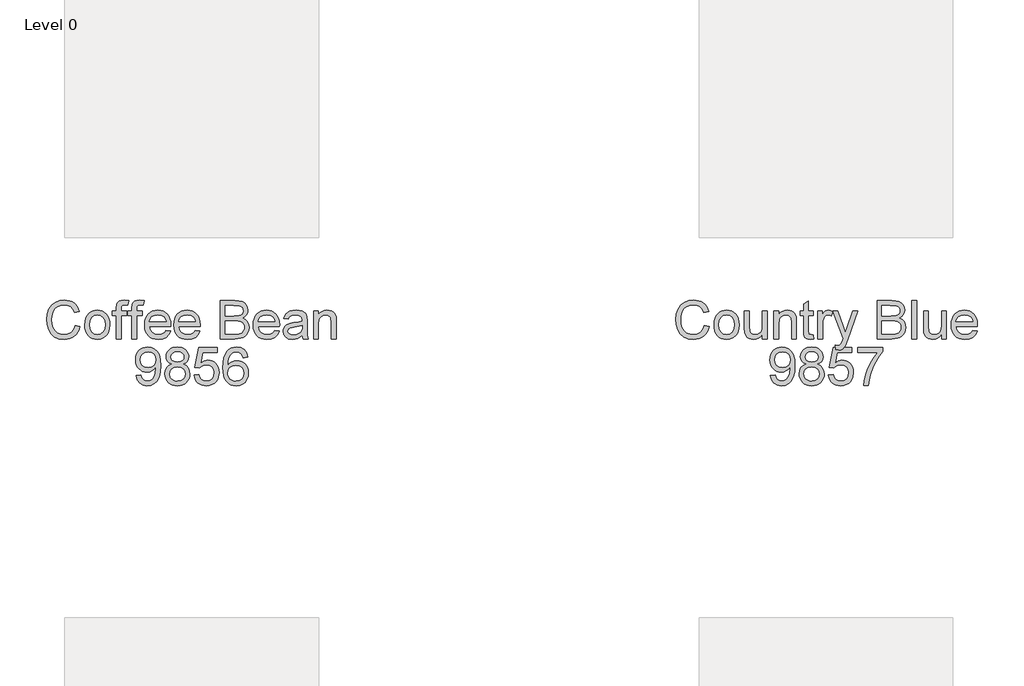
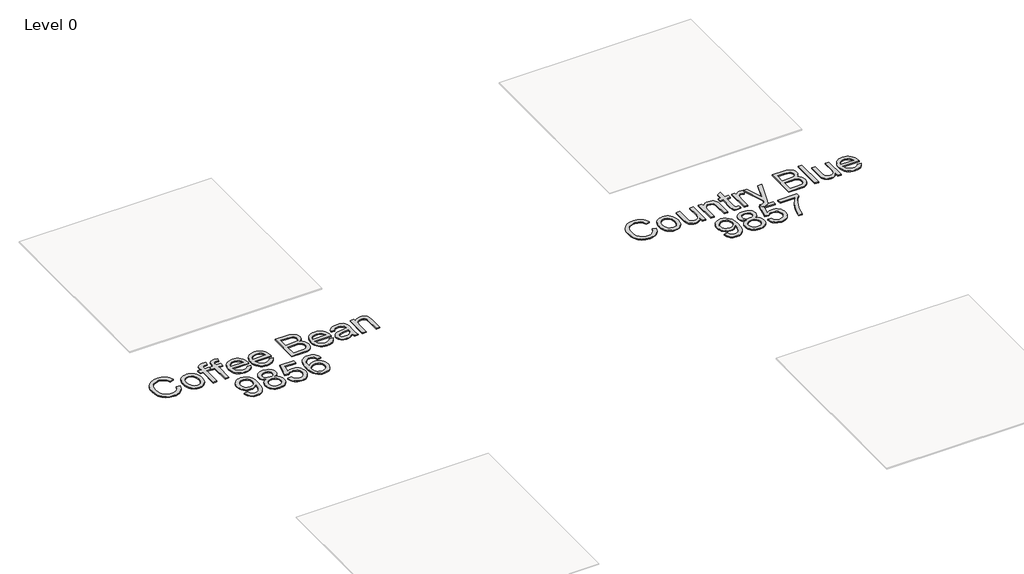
# One storey, part 2 of 8: 2 proxies.
"""IFC4 building model written with IfcOpenShell, lengths in millimetres."""

from ifc_helpers import new_model, si_unit, origin, origin_with_axes, place, context, project, spatial, polyline, outline, extrude, element, save

model = new_model("IFC4")

# Units and contexts
model_context = context("Model", 3, world=origin())
ifc_project = project(units=[si_unit("LENGTHUNIT", "METRE", prefix="MILLI")], contexts=[model_context])

# Site, building, storey
site = spatial("IfcSite", under=ifc_project)
building = spatial("IfcBuilding", under=site)
storey = spatial("IfcBuildingStorey", under=building, Name="Level 0", Elevation=0.0)

# Proxies
placement = place(None, origin())
element("IfcBuildingElementProxy", 1, Name="300mm Arial", ObjectType="300mm Arial", at=placement, inside=storey, context=model_context, shape_type="SweptSolid", body=[
    extrude(outline(polyline([(-10368.8915163, -11895.733257), (-10331.2204, -11905.4453417), (-10338.6746089, -11928.872527), (-10348.6028242, -11949.3428607), (-10361.005046, -11966.856343), (-10375.8812742, -11981.4129737), (-10392.8958165, -11992.856403), (-10411.7129805, -12001.0302811), (-10432.3327663, -12005.9346079), (-10454.7551739, -12007.5693835), (-10498.4503579, -12002.6213707), (-10533.1508271, -11987.7773322), (-10559.7486954, -11963.5523028), (-10579.1360765, -11930.4613173), (-10590.9726797, -11891.5577963), (-10594.9182141, -11849.8951604), (-10590.4576449, -11805.9516561), (-10577.0759373, -11768.0046283), (-10555.4720672, -11737.2588905), (-10526.3450102, -11714.9192564), (-10491.8008909, -11701.3168196), (-10453.9458336, -11696.782674), (-10412.6418825, -11702.6503918), (-10394.6731463, -11709.9850391), (-10378.4932363, -11720.2535453), (-10364.368867, -11733.1845974), (-10352.5667527, -11748.5068825), (-10335.9292895, -11786.3251516), (-10373.6004058, -11795.3014723), (-10386.6602166, -11767.8298843), (-10404.5024934, -11748.9851291), (-10427.3479653, -11738.086625), (-10455.4173615, -11734.4537903), (-10487.772583, -11738.4820981), (-10514.3520572, -11750.5670217), (-10534.5211875, -11769.439368), (-10547.6453777, -11793.8299443), (-10554.8466678, -11821.4026999), (-10557.2470978, -11849.821584), (-10554.4052094, -11884.6232207), (-10545.8795441, -11914.7159679), (-10531.3482053, -11938.9501944), (-10510.4892962, -11956.1762688), (-10485.4825176, -11966.4677676), (-10458.5075703, -11969.8982672), (-10427.0628568, -11965.2261659), (-10400.8604616, -11951.2098619), (-10381.0776074, -11927.996508), (-10368.8915163, -11895.733257)])), origin_with_axes(), (0.0, 0.0, 1.0), 10.0),
    extrude(outline(polyline([(-10293.5492837, -11892.2015898), (-10291.5121371, -11863.5389839), (-10285.4006975, -11838.8403064), (-10275.2149647, -11818.1055575), (-10260.9549389, -11801.334737), (-10246.598344, -11790.6155754), (-10230.7518271, -11782.9590314), (-10213.4153881, -11778.3651049), (-10194.589027, -11776.8337961), (-10173.8059935, -11778.698498), (-10155.0141213, -11784.2926036), (-10138.2134105, -11793.6161129), (-10123.4038609, -11806.669026), (-10111.3166381, -11823.0098843), (-10102.6829075, -11842.1972296), (-10097.5026692, -11864.2310619), (-10095.775923, -11889.1113811), (-10098.8293436, -11927.1687735), (-10107.9896053, -11956.1394806), (-10122.9899936, -11977.8353213), (-10143.5637942, -11994.0681143), (-10168.0003558, -12004.1940662), (-10194.589027, -12007.5693835), (-10215.6755631, -12005.7115794), (-10234.6421792, -12000.1381672), (-10251.4888753, -11990.8491468), (-10266.2156514, -11977.8445183), (-10278.1741155, -11961.3450108), (-10286.7158756, -11941.5713536), (-10291.8409316, -11918.5235466), (-10293.5492837, -11892.2015898)]), holes=[polyline([(-10255.8781674, -11892.1280134), (-10251.5187657, -11926.2214773), (-10238.4405608, -11950.5108861), (-10218.758874, -11965.0514219), (-10194.589027, -11969.8982672), (-10170.5295445, -11965.0238308), (-10150.8846459, -11950.4005215), (-10137.806441, -11925.789216), (-10133.4470394, -11890.950791), (-10137.8340321, -11857.8506085), (-10150.9950105, -11833.8922936), (-10170.6675002, -11819.3517577), (-10194.589027, -11814.5049125), (-10218.758874, -11819.3333636), (-10238.4405608, -11833.8187172), (-10251.5187657, -11858.0529436), (-10255.8781674, -11892.1280134)])]), origin_with_axes(), (0.0, 0.0, 1.0), 10.0),
    extrude(outline(polyline([(-9921.5470101, -12002.860494), (-9921.5470101, -11819.213802), (-9954.5092369, -11819.213802), (-9954.5092369, -11781.5426857), (-9921.5470101, -11781.5426857), (-9921.5470101, -11759.2490368), (-9917.5738846, -11727.8319144), (-9909.9955155, -11715.3055325), (-9898.296868, -11705.3911127), (-9881.9261193, -11698.9347837), (-9860.3314461, -11696.782674), (-9825.9712678, -11700.9029523), (-9831.4894977, -11736.2196239), (-9853.1945354, -11734.4537903), (-9867.5143421, -11736.0172888), (-9876.9229241, -11740.7077842), (-9882.1376514, -11749.6657108), (-9883.8758938, -11764.0315027), (-9883.8758938, -11781.5426857), (-9841.495888, -11781.5426857), (-9841.495888, -11819.213802), (-9883.8758938, -11819.213802), (-9883.8758938, -12002.860494), (-9921.5470101, -12002.860494)])), origin_with_axes(), (0.0, 0.0, 1.0), 10.0),
    extrude(outline(polyline([(-10043.9781381, -12002.860494), (-10043.9781381, -11819.213802), (-10076.9403649, -11819.213802), (-10076.9403649, -11781.5426857), (-10043.9781381, -11781.5426857), (-10043.9781381, -11759.2490368), (-10040.0050126, -11727.8319144), (-10032.4266435, -11715.3055325), (-10020.727996, -11705.3911127), (-10004.3572472, -11698.9347837), (-9982.7625741, -11696.782674), (-9948.4023958, -11700.9029523), (-9953.9206257, -11736.2196239), (-9975.6256634, -11734.4537903), (-9989.9454701, -11736.0172888), (-9999.3540521, -11740.7077842), (-10004.5687794, -11749.6657108), (-10006.3070218, -11764.0315027), (-10006.3070218, -11781.5426857), (-9963.927016, -11781.5426857), (-9963.927016, -11819.213802), (-10006.3070218, -11819.213802), (-10006.3070218, -12002.860494), (-10043.9781381, -12002.860494)])), origin_with_axes(), (0.0, 0.0, 1.0), 10.0),
    extrude(outline(polyline([(-9653.5817648, -11936.9360404), (-9616.6464125, -11941.64493), (-9629.9545437, -11969.4752029), (-9651.1905319, -11990.2789297), (-9679.8761305, -12003.2467701), (-9715.5330928, -12007.5693835), (-9738.9073951, -12005.7046817), (-9759.7341146, -12000.1105761), (-9778.0132512, -11990.7870668), (-9793.744805, -11977.7341537), (-9806.3953471, -11961.3151204), (-9815.4314486, -11941.8932503), (-9820.8531095, -11919.4685435), (-9822.6603298, -11894.0409998), (-9820.8347154, -11867.7512327), (-9815.3578722, -11844.5792656), (-9806.2298002, -11824.5250983), (-9793.4504994, -11807.5887309), (-9777.7603323, -11794.133447), (-9759.8996615, -11784.5225298), (-9739.8684868, -11778.7559796), (-9717.6668084, -11776.8337961), (-9696.1802006, -11778.751381), (-9676.7491335, -11784.5041357), (-9659.373607, -11794.0920602), (-9644.0536212, -11807.5151545), (-9631.5479326, -11824.4147337), (-9622.6152979, -11844.4321128), (-9617.2557171, -11867.5672917), (-9615.4691901, -11893.8202706), (-9615.6899193, -11903.9738137), (-9784.9892135, -11903.9738137), (-9778.4685052, -11932.1719686), (-9763.320964, -11952.902119), (-9741.4595764, -11965.6492302), (-9714.7973288, -11969.8982672), (-9694.7477601, -11967.9300985), (-9677.8619765, -11962.0255925), (-9664.1399781, -11951.8168672), (-9653.5817648, -11936.9360404)]), holes=[polyline([(-9784.9892135, -11866.3026974), (-9653.1403065, -11866.3026974), (-9658.2354721, -11846.4002814), (-9668.2234683, -11832.1632482), (-9690.1860234, -11818.9194964), (-9717.8139612, -11814.5049125), (-9743.2070159, -11818.0273826), (-9764.2038808, -11828.5947929), (-9778.799599, -11845.0667092), (-9784.9892135, -11866.3026974)])]), origin_with_axes(), (0.0, 0.0, 1.0), 10.0),
    extrude(outline(polyline([(-9422.8461775, -11936.9360404), (-9385.9108252, -11941.64493), (-9399.2189563, -11969.4752029), (-9420.4549445, -11990.2789297), (-9449.1405431, -12003.2467701), (-9484.7975055, -12007.5693835), (-9508.1718077, -12005.7046817), (-9528.9985272, -12000.1105761), (-9547.2776638, -11990.7870668), (-9563.0092176, -11977.7341537), (-9575.6597597, -11961.3151204), (-9584.6958613, -11941.8932503), (-9590.1175222, -11919.4685435), (-9591.9247425, -11894.0409998), (-9590.0991281, -11867.7512327), (-9584.6222849, -11844.5792656), (-9575.4942128, -11824.5250983), (-9562.714912, -11807.5887309), (-9547.0247449, -11794.133447), (-9529.1640741, -11784.5225298), (-9509.1328994, -11778.7559796), (-9486.931221, -11776.8337961), (-9465.4446133, -11778.751381), (-9446.0135461, -11784.5041357), (-9428.6380196, -11794.0920602), (-9413.3180338, -11807.5151545), (-9400.8123452, -11824.4147337), (-9391.8797105, -11844.4321128), (-9386.5201297, -11867.5672917), (-9384.7336028, -11893.8202706), (-9384.954332, -11903.9738137), (-9554.2536261, -11903.9738137), (-9547.7329178, -11932.1719686), (-9532.5853766, -11952.902119), (-9510.7239891, -11965.6492302), (-9484.0617415, -11969.8982672), (-9464.0121727, -11967.9300985), (-9447.1263892, -11962.0255925), (-9433.4043907, -11951.8168672), (-9422.8461775, -11936.9360404)]), holes=[polyline([(-9554.2536261, -11866.3026974), (-9422.4047191, -11866.3026974), (-9427.4998847, -11846.4002814), (-9437.4878809, -11832.1632482), (-9459.450436, -11818.9194964), (-9487.0783738, -11814.5049125), (-9512.4714285, -11818.0273826), (-9533.4682934, -11828.5947929), (-9548.0640116, -11845.0667092), (-9554.2536261, -11866.3026974)])]), origin_with_axes(), (0.0, 0.0, 1.0), 10.0),
    extrude(outline(polyline([(-9224.6313585, -12002.860494), (-9224.6313585, -11701.4915635), (-9109.6314468, -11701.4915635), (-9078.0027922, -11703.7080526), (-9053.3087133, -11710.3575196), (-9034.3811847, -11721.6055116), (-9020.052181, -11737.6175755), (-9011.029875, -11756.4531336), (-9008.0224397, -11776.1716086), (-9010.5516284, -11794.317388), (-9018.1391946, -11811.3779155), (-9030.8403205, -11826.3047274), (-9048.7101884, -11838.0493601), (-9027.3638356, -11849.1961846), (-9011.5908951, -11866.1555446), (-9001.8512192, -11887.8054), (-8998.6046606, -11913.0237108), (-9000.8211497, -11934.0389697), (-9007.4706167, -11953.5275184), (-9017.3942335, -11970.1006023), (-9029.4331718, -11982.3694669), (-9044.1760428, -11991.253817), (-9062.2114576, -11997.6733578), (-9110.5143636, -12002.860494), (-9224.6313585, -12002.860494)]), holes=[polyline([(-9186.9602422, -11823.9226915), (-9118.1663091, -11823.9226915), (-9077.9935952, -11820.68533), (-9063.9313059, -11815.1027207), (-9053.8237481, -11806.7426024), (-9047.726104, -11795.7337336), (-9045.693556, -11782.2048733), (-9047.5881483, -11769.071486), (-9053.2719251, -11757.630356), (-9062.4873691, -11748.7000206), (-9074.9769628, -11743.0990172), (-9123.3902334, -11739.1626798), (-9186.9602422, -11739.1626798), (-9186.9602422, -11823.9226915)]), polyline([(-9186.9602422, -11965.1893777), (-9109.7050232, -11965.1893777), (-9081.7459915, -11963.7178497), (-9058.0911793, -11955.5140812), (-9042.4194063, -11938.7754504), (-9037.8116843, -11926.9480443), (-9036.2757769, -11913.3915928), (-9038.0783987, -11897.6462434), (-9043.486264, -11884.1081859), (-9052.9316343, -11873.5223815), (-9066.8467707, -11866.6337912), (-9086.5560486, -11862.8538037), (-9113.3838431, -11861.5938078), (-9186.9602422, -11861.5938078), (-9186.9602422, -11965.1893777)])]), origin_with_axes(), (0.0, 0.0, 1.0), 10.0),
    extrude(outline(polyline([(-8796.5638689, -11936.9360404), (-8759.6285166, -11941.64493), (-8772.9366477, -11969.4752029), (-8794.1726359, -11990.2789297), (-8822.8582345, -12003.2467701), (-8858.5151969, -12007.5693835), (-8881.8894991, -12005.7046817), (-8902.7162186, -12000.1105761), (-8920.9953552, -11990.7870668), (-8936.726909, -11977.7341537), (-8949.3774512, -11961.3151204), (-8958.4135527, -11941.8932503), (-8963.8352136, -11919.4685435), (-8965.6424339, -11894.0409998), (-8963.8168195, -11867.7512327), (-8958.3399763, -11844.5792656), (-8949.2119043, -11824.5250983), (-8936.4326034, -11807.5887309), (-8920.7424364, -11794.133447), (-8902.8817655, -11784.5225298), (-8882.8505909, -11778.7559796), (-8860.6489124, -11776.8337961), (-8839.1623047, -11778.751381), (-8819.7312375, -11784.5041357), (-8802.355711, -11794.0920602), (-8787.0357252, -11807.5151545), (-8774.5300366, -11824.4147337), (-8765.5974019, -11844.4321128), (-8760.2378211, -11867.5672917), (-8758.4512942, -11893.8202706), (-8758.6720234, -11903.9738137), (-8927.9713176, -11903.9738137), (-8921.4506092, -11932.1719686), (-8906.303068, -11952.902119), (-8884.4416805, -11965.6492302), (-8857.7794329, -11969.8982672), (-8837.7298641, -11967.9300985), (-8820.8440806, -11962.0255925), (-8807.1220821, -11951.8168672), (-8796.5638689, -11936.9360404)]), holes=[polyline([(-8927.9713176, -11866.3026974), (-8796.1224105, -11866.3026974), (-8801.2175761, -11846.4002814), (-8811.2055723, -11832.1632482), (-8833.1681274, -11818.9194964), (-8860.7960652, -11814.5049125), (-8886.18912, -11818.0273826), (-8907.1859848, -11828.5947929), (-8921.781703, -11845.0667092), (-8927.9713176, -11866.3026974)])]), origin_with_axes(), (0.0, 0.0, 1.0), 10.0),
    extrude(outline(polyline([(-8579.5134917, -11974.6071568), (-8597.5121183, -11990.0398064), (-8616.0441738, -12000.1381672), (-8635.5327225, -12005.7115794), (-8656.4008287, -12007.5693835), (-8687.8823305, -12003.0996173), (-8711.1048814, -11989.6903186), (-8725.4246881, -11969.3280501), (-8730.197957, -11943.9993748), (-8728.3953352, -11928.3827841), (-8722.9874698, -11914.2009331), (-8714.6457456, -11902.0608273), (-8704.0415471, -11892.5694718), (-8677.664408, -11880.2086368), (-8645.0700633, -11874.5432541), (-8606.5528184, -11868.5835657), (-8579.7342209, -11861.5938078), (-8579.5134917, -11853.2060983), (-8582.1070598, -11836.3938912), (-8589.887764, -11825.3942195), (-8607.2885824, -11817.2272392), (-8631.5320058, -11814.5049125), (-8653.9728076, -11816.3167313), (-8669.6445805, -11821.7521878), (-8680.3315525, -11831.8045633), (-8687.8179511, -11847.4671392), (-8725.4890674, -11842.7582497), (-8718.949965, -11822.156858), (-8709.191895, -11805.9700502), (-8695.3043497, -11793.590821), (-8676.3768211, -11784.4121652), (-8653.2278465, -11778.7283884), (-8626.6759635, -11776.8337961), (-8601.2093324, -11778.5076592), (-8581.0218079, -11783.5292485), (-8565.8006904, -11791.0800264), (-8555.23328, -11800.3414556), (-8548.225128, -11811.7917827), (-8543.6817854, -11825.9092543), (-8541.8423754, -11858.8714811), (-8541.8423754, -11905.7396473), (-8539.929389, -11971.1858542), (-8532.4245963, -12002.860494), (-8570.0957127, -12002.860494), (-8579.5134917, -11974.6071568)]), holes=[polyline([(-8579.5134917, -11899.2649241), (-8640.2875973, -11910.8164188), (-8672.6980011, -11916.9232599), (-8687.3764927, -11926.8560738), (-8692.5268406, -11941.3506244), (-8689.7217404, -11952.5526311), (-8681.3064398, -11961.7312869), (-8667.4648797, -11967.8565221), (-8648.3810012, -11969.8982672), (-8628.1474915, -11967.64499), (-8610.2684265, -11960.8851583), (-8595.7738759, -11950.9247533), (-8585.6939092, -11939.069756), (-8581.224143, -11926.8560738), (-8579.7342209, -11909.933502), (-8579.5134917, -11899.2649241)])]), origin_with_axes(), (0.0, 0.0, 1.0), 10.0),
    extrude(outline(polyline([(-8490.0445905, -12002.860494), (-8490.0445905, -11781.5426857), (-8452.3734742, -11781.5426857), (-8452.3734742, -11812.4447733), (-8439.2860722, -11796.8649708), (-8423.568314, -11785.7365404), (-8405.2201995, -11779.0594822), (-8384.2417287, -11776.8337961), (-8365.672885, -11778.6272209), (-8348.6675398, -11784.0074951), (-8334.4856888, -11792.303234), (-8324.3873281, -11802.8430532), (-8313.0933508, -11830.5445674), (-8311.106788, -11866.964885), (-8311.106788, -12002.860494), (-8348.7779044, -12002.860494), (-8348.7779044, -11872.0416565), (-8353.1189119, -11838.7115477), (-8359.1245855, -11828.7879309), (-8368.4595911, -11821.0900002), (-8380.424953, -11816.1511844), (-8394.3216954, -11814.5049125), (-8416.385418, -11818.2021265), (-8435.193385, -11829.2937687), (-8442.709674, -11838.3482643), (-8448.0784519, -11850.7228949), (-8452.3734742, -11885.4325611), (-8452.3734742, -12002.860494), (-8490.0445905, -12002.860494)])), origin_with_axes(), (0.0, 0.0, 1.0), 10.0),
    extrude(outline(polyline([(-9888.5847834, -12293.4427149), (-9850.9136671, -12288.7338254), (-9844.4757321, -12310.1169663), (-9833.9910953, -12324.6758963), (-9819.7172739, -12333.0360146), (-9801.9117853, -12335.8227207), (-9785.9365097, -12334.029296), (-9771.4143679, -12328.6490218), (-9759.3478385, -12320.2705094), (-9750.7393998, -12309.4823699), (-9738.4153529, -12276.7408723), (-9732.9706994, -12233.0364913), (-9733.1914286, -12225.6788514), (-9746.2420424, -12241.6081418), (-9763.320964, -12254.2264942), (-9783.1957888, -12262.4486568), (-9804.6341121, -12265.1893777), (-9822.5292719, -12263.5155146), (-9838.9850934, -12258.4939254), (-9854.0015766, -12250.12461), (-9867.5787214, -12238.4075684), (-9878.8290127, -12223.9544045), (-9886.864935, -12207.3767221), (-9891.6864884, -12188.6745212), (-9893.2936729, -12167.8478018), (-9891.6083135, -12146.326705), (-9886.5522353, -12127.0129003), (-9878.1254384, -12109.9063875), (-9866.3279227, -12095.0071667), (-9851.9920212, -12082.9360387), (-9835.9500669, -12074.3138045), (-9818.2020599, -12069.1404639), (-9798.7480001, -12067.4160171), (-9770.6510128, -12071.3523544), (-9745.074017, -12083.1613665), (-9723.681679, -12102.254442), (-9708.1386647, -12128.0429699), (-9698.6749004, -12163.6907352), (-9695.5203123, -12212.3615232), (-9698.6657034, -12263.96617), (-9708.1018765, -12303.8537754), (-9723.7460584, -12333.8269609), (-9745.5154754, -12355.6883485), (-9772.4720286, -12369.0424649), (-9803.6776189, -12373.4938371), (-9835.8856876, -12368.2423216), (-9861.5822449, -12352.4877751), (-9879.5532804, -12327.2234791), (-9888.5847834, -12293.4427149)]), holes=[polyline([(-9733.1914286, -12166.964885), (-9737.2565246, -12141.4338745), (-9749.4518128, -12121.788976), (-9768.3793414, -12109.262594), (-9792.641159, -12105.0871334), (-9817.8042875, -12109.5844908), (-9837.9642208, -12123.0765629), (-9851.2079727, -12143.7239399), (-9855.6225566, -12169.6872117), (-9851.447096, -12192.964945), (-9838.920714, -12211.4418182), (-9819.2574214, -12223.4991506), (-9793.6712286, -12227.5182614), (-9769.6025491, -12223.4991506), (-9750.224365, -12211.4418182), (-9737.4496627, -12192.2843633), (-9733.1914286, -12166.964885)])]), origin_with_axes(), (0.0, 0.0, 1.0), 10.0),
    extrude(outline(polyline([(-9607.6700918, -12202.7965913), (-9627.8392222, -12192.8637774), (-9641.993482, -12179.3992964), (-9650.3536003, -12162.6790597), (-9653.1403065, -12142.9789789), (-9651.6227932, -12127.6153071), (-9647.0702535, -12113.5300252), (-9639.4826874, -12100.7231332), (-9628.8600948, -12089.1946312), (-9615.712912, -12079.6664875), (-9600.5515752, -12072.8606706), (-9564.18644, -12067.4160171), (-9527.6005756, -12072.9894293), (-9512.273692, -12079.9561946), (-9498.9241741, -12089.709666), (-9488.1084434, -12101.4634957), (-9480.3829215, -12114.4313361), (-9475.7476084, -12128.613187), (-9474.202504, -12144.0090485), (-9476.9524219, -12163.0745329), (-9485.2021757, -12179.509661), (-9499.0437357, -12192.8913686), (-9518.5690726, -12202.7965913), (-9495.3833099, -12214.7435591), (-9478.5067233, -12232.3375155), (-9468.2152245, -12254.732332), (-9464.7847249, -12281.0818799), (-9466.4861791, -12299.8714528), (-9471.5905418, -12317.0975272), (-9480.097813, -12332.7601031), (-9492.0079926, -12346.8591806), (-9506.6956812, -12358.5118428), (-9523.5354796, -12366.8351729), (-9542.5273876, -12371.829171), (-9563.6714052, -12373.4938371), (-9584.8154229, -12371.8222732), (-9603.8073309, -12366.8075818), (-9620.6471292, -12358.4497627), (-9635.3348179, -12346.748816), (-9647.2449975, -12332.5508703), (-9655.7522686, -12316.702054), (-9660.8566313, -12299.2023674), (-9662.5580855, -12280.0518103), (-9658.9896302, -12252.6813898), (-9648.2842641, -12230.1670117), (-9630.9938103, -12213.2812282), (-9607.6700918, -12202.7965913)]), holes=[polyline([(-9615.4691901, -12144.0826249), (-9612.130661, -12160.52695), (-9602.1150737, -12173.6603373), (-9585.7167338, -12182.268776), (-9563.2299468, -12185.1382555), (-9541.2673917, -12182.2871701), (-9525.1173721, -12173.7339137), (-9515.1845583, -12161.0419848), (-9511.8736203, -12145.774882), (-9515.2949229, -12129.9283651), (-9525.5588305, -12116.822569), (-9541.9295793, -12108.0209923), (-9563.6714052, -12105.0871334), (-9585.5511869, -12107.9566129), (-9601.8943445, -12116.5650516), (-9612.0754787, -12129.1834041), (-9615.4691901, -12144.0826249)]), polyline([(-9624.8869692, -12278.7274351), (-9618.5961871, -12307.0911369), (-9609.8865809, -12319.2588339), (-9596.3393264, -12328.317928), (-9580.1157304, -12333.9465226), (-9563.3770996, -12335.8227207), (-9537.7357246, -12331.8771864), (-9518.4954962, -12320.0405832), (-9506.465755, -12302.1155329), (-9502.4558412, -12279.9046575), (-9506.5945137, -12257.316703), (-9519.010531, -12238.9961796), (-9538.6922178, -12226.8560738), (-9564.6278984, -12222.8093718), (-9589.9105885, -12226.8008915), (-9608.9576788, -12238.7754504), (-9620.9046466, -12256.7464859), (-9624.8869692, -12278.7274351)])]), origin_with_axes(), (0.0, 0.0, 1.0), 10.0),
    extrude(outline(polyline([(-9431.8224982, -12288.7338254), (-9394.1513818, -12284.0249358), (-9387.2352003, -12306.6404815), (-9375.1686709, -12322.8364863), (-9358.0069758, -12332.5761621), (-9335.8052974, -12335.8227207), (-9308.802759, -12331.3069693), (-9288.5692492, -12317.7597148), (-9275.9325027, -12296.7444558), (-9271.7202539, -12269.8246908), (-9275.6657883, -12244.4776213), (-9287.5023914, -12225.0902402), (-9307.3220339, -12212.7845875), (-9335.2166862, -12208.6827032), (-9353.4912243, -12210.3197781), (-9368.2892776, -12215.2310027), (-9389.4424923, -12232.2271509), (-9427.1136086, -12227.5182614), (-9394.1513818, -12072.1249066), (-9248.1758062, -12072.1249066), (-9248.1758062, -12109.7960229), (-9363.6907526, -12109.7960229), (-9379.803984, -12192.790201), (-9352.8934161, -12176.4562404), (-9324.6952612, -12171.0115869), (-9306.3494459, -12172.6992456), (-9289.4981513, -12177.7622215), (-9274.1413772, -12186.2005148), (-9260.2791238, -12198.0141254), (-9248.8035048, -12212.4810848), (-9240.6066341, -12228.8794248), (-9235.6885117, -12247.2091452), (-9234.0491375, -12267.470246), (-9239.9536436, -12305.1413624), (-9247.3342761, -12321.9351754), (-9257.6671616, -12337.3678251), (-9273.3205405, -12353.1729553), (-9291.5858816, -12364.4623341), (-9312.4631848, -12371.2359613), (-9335.9524502, -12373.4938371), (-9372.9521819, -12367.6904986), (-9388.6308527, -12360.4363255), (-9402.4287267, -12350.2804832), (-9413.9089443, -12337.7288093), (-9422.6346453, -12323.2871418), (-9431.8224982, -12288.7338254)])), origin_with_axes(), (0.0, 0.0, 1.0), 10.0),
    extrude(outline(polyline([(-9008.0224397, -12147.4671392), (-9045.693556, -12152.1760288), (-9051.7636089, -12133.5060175), (-9059.9673774, -12120.7589064), (-9077.0554961, -12109.0050766), (-9097.7120701, -12105.0871334), (-9115.2232531, -12107.3680017), (-9131.7043665, -12114.2106069), (-9145.8586263, -12128.622384), (-9157.419318, -12148.4604206), (-9165.2276133, -12176.5206198), (-9168.124684, -12215.5988847), (-9153.0139311, -12197.9681401), (-9134.9049398, -12185.5429257), (-9114.8093859, -12178.1760888), (-9093.7389446, -12175.7204764), (-9075.6391504, -12177.3989381), (-9058.9373078, -12182.4343229), (-9043.6334168, -12190.8266309), (-9029.7274774, -12202.5758621), (-9018.1713843, -12216.9830407), (-9009.917032, -12233.349191), (-9004.9644206, -12251.6743129), (-9003.3135502, -12271.9584064), (-9006.422153, -12298.9333537), (-9015.7479616, -12323.9401323), (-9030.5184237, -12345.1485293), (-9049.9609872, -12360.7283318), (-9073.1927352, -12370.3024607), (-9099.3307509, -12373.4938371), (-9121.7876475, -12371.3785156), (-9142.0694417, -12365.0325512), (-9160.1761337, -12354.4559438), (-9176.1077233, -12339.6486935), (-9189.096257, -12319.9854009), (-9198.3737811, -12294.8406665), (-9203.9402955, -12264.2144904), (-9205.7958003, -12228.1068726), (-9203.7356611, -12187.6260575), (-9197.5552436, -12153.0773396), (-9187.2545478, -12124.4607189), (-9172.8335735, -12101.7761954), (-9157.2031873, -12086.7436174), (-9139.0804005, -12076.0060617), (-9118.4652132, -12069.5635282), (-9095.3576254, -12067.4160171), (-9062.3034281, -12072.7319119), (-9035.8343185, -12088.6795964), (-9017.293066, -12114.0082718), (-9008.0224397, -12147.4671392)]), holes=[polyline([(-9168.124684, -12271.3697952), (-9165.9449832, -12288.0624407), (-9159.4058807, -12304.0009282), (-9149.2523377, -12317.7045325), (-9136.229315, -12327.6925287), (-9120.5115568, -12333.7901727), (-9102.2738069, -12335.8227207), (-9077.4141811, -12331.6104719), (-9057.8704501, -12318.9737254), (-9045.2061124, -12299.1080976), (-9040.9846665, -12273.2092052), (-9045.1509301, -12248.3495793), (-9057.6497209, -12229.3944595), (-9077.5245456, -12217.3923095), (-9103.8189113, -12213.3915928), (-9128.6417489, -12217.3923095), (-9149.3994905, -12229.3944595), (-9163.4433856, -12247.8897269), (-9168.124684, -12271.3697952)])]), origin_with_axes(), (0.0, 0.0, 1.0), 10.0),
])
element("IfcBuildingElementProxy", 2, Name="300mm Arial", ObjectType="300mm Arial", at=placement, inside=storey, context=model_context, shape_type="SweptSolid", body=[
    extrude(outline(polyline([(-5408.9170773, -11895.733257), (-5371.245961, -11905.4453417), (-5378.70017, -11928.872527), (-5388.6283853, -11949.3428607), (-5401.0306071, -11966.856343), (-5415.9068353, -11981.4129737), (-5432.9213775, -11992.856403), (-5451.7385416, -12001.0302811), (-5472.3583274, -12005.9346079), (-5494.780735, -12007.5693835), (-5538.475919, -12002.6213707), (-5573.1763882, -11987.7773322), (-5599.7742564, -11963.5523028), (-5619.1616376, -11930.4613173), (-5630.9982408, -11891.5577963), (-5634.9437752, -11849.8951604), (-5630.483206, -11805.9516561), (-5617.1014984, -11768.0046283), (-5595.4976282, -11737.2588905), (-5566.3705713, -11714.9192564), (-5531.8264519, -11701.3168196), (-5493.9713946, -11696.782674), (-5452.6674436, -11702.6503918), (-5434.6987074, -11709.9850391), (-5418.5187974, -11720.2535453), (-5404.3944281, -11733.1845974), (-5392.5923138, -11748.5068825), (-5375.9548506, -11786.3251516), (-5413.6259669, -11795.3014723), (-5426.6857777, -11767.8298843), (-5444.5280545, -11748.9851291), (-5467.3735264, -11738.086625), (-5495.4429226, -11734.4537903), (-5527.7981441, -11738.4820981), (-5554.3776182, -11750.5670217), (-5574.5467486, -11769.439368), (-5587.6709388, -11793.8299443), (-5594.8722289, -11821.4026999), (-5597.2726589, -11849.821584), (-5594.4307705, -11884.6232207), (-5585.9051052, -11914.7159679), (-5571.3737664, -11938.9501944), (-5550.5148573, -11956.1762688), (-5525.5080787, -11966.4677676), (-5498.5331314, -11969.8982672), (-5467.0884178, -11965.2261659), (-5440.8860227, -11951.2098619), (-5421.1031684, -11927.996508), (-5408.9170773, -11895.733257)])), origin_with_axes(), (0.0, 0.0, 1.0), 10.0),
    extrude(outline(polyline([(-5333.5748447, -11892.2015898), (-5331.5376982, -11863.5389839), (-5325.4262585, -11838.8403064), (-5315.2405258, -11818.1055575), (-5300.9805, -11801.334737), (-5286.6239051, -11790.6155754), (-5270.7773882, -11782.9590314), (-5253.4409491, -11778.3651049), (-5234.614588, -11776.8337961), (-5213.8315546, -11778.698498), (-5195.0396824, -11784.2926036), (-5178.2389715, -11793.6161129), (-5163.429422, -11806.669026), (-5151.3421992, -11823.0098843), (-5142.7084686, -11842.1972296), (-5137.5282302, -11864.2310619), (-5135.8014841, -11889.1113811), (-5138.8549047, -11927.1687735), (-5148.0151664, -11956.1394806), (-5163.0155547, -11977.8353213), (-5183.5893553, -11994.0681143), (-5208.0259168, -12004.1940662), (-5234.614588, -12007.5693835), (-5255.7011241, -12005.7115794), (-5274.6677403, -12000.1381672), (-5291.5144364, -11990.8491468), (-5306.2412125, -11977.8445183), (-5318.1996766, -11961.3450108), (-5326.7414367, -11941.5713536), (-5331.8664927, -11918.5235466), (-5333.5748447, -11892.2015898)]), holes=[polyline([(-5295.9037284, -11892.1280134), (-5291.5443268, -11926.2214773), (-5278.4661219, -11950.5108861), (-5258.7844351, -11965.0514219), (-5234.614588, -11969.8982672), (-5210.5551055, -11965.0238308), (-5190.910207, -11950.4005215), (-5177.8320021, -11925.789216), (-5173.4726004, -11890.950791), (-5177.8595932, -11857.8506085), (-5191.0205716, -11833.8922936), (-5210.6930613, -11819.3517577), (-5234.614588, -11814.5049125), (-5258.7844351, -11819.3333636), (-5278.4661219, -11833.8187172), (-5291.5443268, -11858.0529436), (-5295.9037284, -11892.1280134)])]), origin_with_axes(), (0.0, 0.0, 1.0), 10.0),
    extrude(outline(polyline([(-4952.1547921, -12002.860494), (-4952.1547921, -11964.8214957), (-4965.7848201, -11983.5236966), (-4981.6589281, -11996.8824116), (-4999.7771164, -12004.8976405), (-5020.1393848, -12007.5693835), (-5038.4874994, -12005.6931853), (-5055.566421, -12000.0645908), (-5069.8954247, -11991.6033049), (-5079.9937855, -11981.2290327), (-5091.2141863, -11953.4907302), (-5093.4214783, -11918.4683643), (-5093.4214783, -11781.5426857), (-5055.750362, -11781.5426857), (-5055.750362, -11900.7364521), (-5053.4694936, -11939.1433324), (-5047.9788548, -11951.9548229), (-5038.5702728, -11961.6944987), (-5025.8691469, -11967.8473251), (-5010.5008766, -11969.8982672), (-4994.2496894, -11967.8013398), (-4979.046966, -11961.5105577), (-4966.511387, -11951.605335), (-4958.2616333, -11938.6650858), (-4953.6815024, -11920.9423707), (-4952.1547921, -11896.6897502), (-4952.1547921, -11781.5426857), (-4914.4836758, -11781.5426857), (-4914.4836758, -12002.860494), (-4952.1547921, -12002.860494)])), origin_with_axes(), (0.0, 0.0, 1.0), 10.0),
    extrude(outline(polyline([(-4862.6858909, -12002.860494), (-4862.6858909, -11781.5426857), (-4825.0147746, -11781.5426857), (-4825.0147746, -11812.4447733), (-4811.9273726, -11796.8649708), (-4796.2096144, -11785.7365404), (-4777.8614999, -11779.0594822), (-4756.8830291, -11776.8337961), (-4738.3141854, -11778.6272209), (-4721.3088402, -11784.0074951), (-4707.1269892, -11792.303234), (-4697.0286285, -11802.8430532), (-4685.7346512, -11830.5445674), (-4683.7480885, -11866.964885), (-4683.7480885, -12002.860494), (-4721.4192048, -12002.860494), (-4721.4192048, -11872.0416565), (-4725.7602123, -11838.7115477), (-4731.7658859, -11828.7879309), (-4741.1008915, -11821.0900002), (-4753.0662534, -11816.1511844), (-4766.9629958, -11814.5049125), (-4789.0267184, -11818.2021265), (-4807.8346854, -11829.2937687), (-4815.3509744, -11838.3482643), (-4820.7197523, -11850.7228949), (-4825.0147746, -11885.4325611), (-4825.0147746, -12002.860494), (-4862.6858909, -12002.860494)])), origin_with_axes(), (0.0, 0.0, 1.0), 10.0),
    extrude(outline(polyline([(-4551.8991814, -11971.4433716), (-4547.1902918, -12003.96414), (-4575.3700527, -12007.5693835), (-4593.4514527, -12006.005885), (-4606.9343279, -12001.3153896), (-4616.4624715, -11994.0865084), (-4622.6796773, -11984.9078526), (-4626.1009798, -11969.1441091), (-4627.241414, -11942.1599648), (-4627.241414, -11819.213802), (-4655.4947512, -11819.213802), (-4655.4947512, -11781.5426857), (-4627.241414, -11781.5426857), (-4627.241414, -11727.758338), (-4589.5702977, -11705.6118419), (-4589.5702977, -11781.5426857), (-4551.8991814, -11781.5426857), (-4551.8991814, -11819.213802), (-4589.5702977, -11819.213802), (-4589.5702977, -11941.0563188), (-4587.5837349, -11960.4804881), (-4581.1458, -11967.3598814), (-4568.3067184, -11969.8982672), (-4551.8991814, -11971.4433716)])), origin_with_axes(), (0.0, 0.0, 1.0), 10.0),
    extrude(outline(polyline([(-4514.2280651, -12002.860494), (-4514.2280651, -11781.5426857), (-4481.2658383, -11781.5426857), (-4481.2658383, -11814.2841833), (-4469.0889443, -11795.3014723), (-4457.8685434, -11784.1178596), (-4446.6113544, -11778.654812), (-4434.3240957, -11776.8337961), (-4415.562114, -11779.7400639), (-4396.5058266, -11788.4588672), (-4409.0873909, -11822.2304343), (-4422.3311427, -11816.4362929), (-4435.5748945, -11814.5049125), (-4446.8228865, -11816.3627165), (-4456.875262, -11821.9361288), (-4464.9962571, -11830.8020848), (-4470.4501076, -11842.5375205), (-4475.0302385, -11863.5803706), (-4476.5569488, -11886.5362071), (-4476.5569488, -12002.860494), (-4514.2280651, -12002.860494)])), origin_with_axes(), (0.0, 0.0, 1.0), 10.0),
    extrude(outline(polyline([(-4372.9613789, -12087.6205057), (-4377.6702685, -12051.3473409), (-4358.5404047, -12054.6582789), (-4340.6613397, -12050.5012124), (-4329.6984563, -12038.9129295), (-4319.3977604, -12011.1746271), (-4316.4547045, -12002.0511536), (-4396.5058266, -11781.5426857), (-4356.7745711, -11781.5426857), (-4314.3209889, -11904.4152721), (-4299.5321327, -11953.5643066), (-4284.7432765, -11910.1542312), (-4241.1124719, -11781.5426857), (-4201.675522, -11781.5426857), (-4278.7100118, -12008.1579947), (-4298.7227923, -12057.3070293), (-4308.9683059, -12072.9971964), (-4320.5749828, -12083.8681093), (-4334.0578579, -12090.2140737), (-4349.931966, -12092.3293952), (-4372.9613789, -12087.6205057)])), origin_with_axes(), (0.0, 0.0, 1.0), 10.0),
    extrude(outline(polyline([(-4048.0480008, -12002.860494), (-4048.0480008, -11701.4915635), (-3933.0480891, -11701.4915635), (-3901.4194346, -11703.7080526), (-3876.7253556, -11710.3575196), (-3857.797827, -11721.6055116), (-3843.4688233, -11737.6175755), (-3834.4465173, -11756.4531336), (-3831.439082, -11776.1716086), (-3833.9682707, -11794.317388), (-3841.5558369, -11811.3779155), (-3854.2569628, -11826.3047274), (-3872.1268307, -11838.0493601), (-3850.7804779, -11849.1961846), (-3835.0075374, -11866.1555446), (-3825.2678616, -11887.8054), (-3822.0213029, -11913.0237108), (-3824.237792, -11934.0389697), (-3830.887259, -11953.5275184), (-3840.8108759, -11970.1006023), (-3852.8498141, -11982.3694669), (-3867.5926851, -11991.253817), (-3885.6280999, -11997.6733578), (-3933.9310059, -12002.860494), (-4048.0480008, -12002.860494)]), holes=[polyline([(-4010.3768845, -11823.9226915), (-3941.5829514, -11823.9226915), (-3901.4102375, -11820.68533), (-3887.3479482, -11815.1027207), (-3877.2403904, -11806.7426024), (-3871.1427464, -11795.7337336), (-3869.1101983, -11782.2048733), (-3871.0047906, -11769.071486), (-3876.6885674, -11757.630356), (-3885.9040114, -11748.7000206), (-3898.3936051, -11743.0990172), (-3946.8068757, -11739.1626798), (-4010.3768845, -11739.1626798), (-4010.3768845, -11823.9226915)]), polyline([(-4010.3768845, -11965.1893777), (-3933.1216655, -11965.1893777), (-3905.1626339, -11963.7178497), (-3881.5078216, -11955.5140812), (-3865.8360486, -11938.7754504), (-3861.2283266, -11926.9480443), (-3859.6924193, -11913.3915928), (-3861.495041, -11897.6462434), (-3866.9029064, -11884.1081859), (-3876.3482766, -11873.5223815), (-3890.2634131, -11866.6337912), (-3909.9726909, -11862.8538037), (-3936.8004854, -11861.5938078), (-4010.3768845, -11861.5938078), (-4010.3768845, -11965.1893777)])]), origin_with_axes(), (0.0, 0.0, 1.0), 10.0),
    extrude(outline(polyline([(-3774.9324076, -12002.860494), (-3774.9324076, -11701.4915635), (-3737.2612913, -11701.4915635), (-3737.2612913, -12002.860494), (-3774.9324076, -12002.860494)])), origin_with_axes(), (0.0, 0.0, 1.0), 10.0),
    extrude(outline(polyline([(-3539.4879307, -12002.860494), (-3539.4879307, -11964.8214957), (-3553.1179586, -11983.5236966), (-3568.9920667, -11996.8824116), (-3587.1102549, -12004.8976405), (-3607.4725234, -12007.5693835), (-3625.8206379, -12005.6931853), (-3642.8995595, -12000.0645908), (-3657.2285632, -11991.6033049), (-3667.326924, -11981.2290327), (-3678.5473248, -11953.4907302), (-3680.7546168, -11918.4683643), (-3680.7546168, -11781.5426857), (-3643.0835005, -11781.5426857), (-3643.0835005, -11900.7364521), (-3640.8026321, -11939.1433324), (-3635.3119933, -11951.9548229), (-3625.9034113, -11961.6944987), (-3613.2022854, -11967.8473251), (-3597.8340151, -11969.8982672), (-3581.582828, -11967.8013398), (-3566.3801045, -11961.5105577), (-3553.8445255, -11951.605335), (-3545.5947718, -11938.6650858), (-3541.0146409, -11920.9423707), (-3539.4879307, -11896.6897502), (-3539.4879307, -11781.5426857), (-3501.8168143, -11781.5426857), (-3501.8168143, -12002.860494), (-3539.4879307, -12002.860494)])), origin_with_axes(), (0.0, 0.0, 1.0), 10.0),
    extrude(outline(polyline([(-3295.0671331, -11936.9360404), (-3258.1317807, -11941.64493), (-3271.4399119, -11969.4752029), (-3292.6759001, -11990.2789297), (-3321.3614987, -12003.2467701), (-3357.018461, -12007.5693835), (-3380.3927633, -12005.7046817), (-3401.2194828, -12000.1105761), (-3419.4986194, -11990.7870668), (-3435.2301732, -11977.7341537), (-3447.8807153, -11961.3151204), (-3456.9168168, -11941.8932503), (-3462.3384777, -11919.4685435), (-3464.145698, -11894.0409998), (-3462.3200836, -11867.7512327), (-3456.8432404, -11844.5792656), (-3447.7151684, -11824.5250983), (-3434.9358676, -11807.5887309), (-3419.2457005, -11794.133447), (-3401.3850297, -11784.5225298), (-3381.353855, -11778.7559796), (-3359.1521766, -11776.8337961), (-3337.6655688, -11778.751381), (-3318.2345017, -11784.5041357), (-3300.8589752, -11794.0920602), (-3285.5389894, -11807.5151545), (-3273.0333008, -11824.4147337), (-3264.1006661, -11844.4321128), (-3258.7410853, -11867.5672917), (-3256.9545584, -11893.8202706), (-3257.1752876, -11903.9738137), (-3426.4745817, -11903.9738137), (-3419.9538734, -11932.1719686), (-3404.8063322, -11952.902119), (-3382.9449447, -11965.6492302), (-3356.2826971, -11969.8982672), (-3336.2331283, -11967.9300985), (-3319.3473447, -11962.0255925), (-3305.6253463, -11951.8168672), (-3295.0671331, -11936.9360404)]), holes=[polyline([(-3426.4745817, -11866.3026974), (-3294.6256747, -11866.3026974), (-3299.7208403, -11846.4002814), (-3309.7088365, -11832.1632482), (-3331.6713916, -11818.9194964), (-3359.2993294, -11814.5049125), (-3384.6923841, -11818.0273826), (-3405.689249, -11828.5947929), (-3420.2849672, -11845.0667092), (-3426.4745817, -11866.3026974)])]), origin_with_axes(), (0.0, 0.0, 1.0), 10.0),
    extrude(outline(polyline([(-4888.5847834, -12293.4427149), (-4850.9136671, -12288.7338254), (-4844.4757321, -12310.1169663), (-4833.9910953, -12324.6758963), (-4819.7172739, -12333.0360146), (-4801.9117853, -12335.8227207), (-4785.9365097, -12334.029296), (-4771.4143679, -12328.6490218), (-4759.3478385, -12320.2705094), (-4750.7393998, -12309.4823699), (-4738.4153529, -12276.7408723), (-4732.9706994, -12233.0364913), (-4733.1914286, -12225.6788514), (-4746.2420424, -12241.6081418), (-4763.320964, -12254.2264942), (-4783.1957888, -12262.4486568), (-4804.6341121, -12265.1893777), (-4822.5292719, -12263.5155146), (-4838.9850934, -12258.4939254), (-4854.0015766, -12250.12461), (-4867.5787214, -12238.4075684), (-4878.8290127, -12223.9544045), (-4886.864935, -12207.3767221), (-4891.6864884, -12188.6745212), (-4893.2936729, -12167.8478018), (-4891.6083135, -12146.326705), (-4886.5522353, -12127.0129003), (-4878.1254384, -12109.9063875), (-4866.3279227, -12095.0071667), (-4851.9920212, -12082.9360387), (-4835.9500669, -12074.3138045), (-4818.2020599, -12069.1404639), (-4798.7480001, -12067.4160171), (-4770.6510128, -12071.3523544), (-4745.074017, -12083.1613665), (-4723.681679, -12102.254442), (-4708.1386647, -12128.0429699), (-4698.6749004, -12163.6907352), (-4695.5203123, -12212.3615232), (-4698.6657034, -12263.96617), (-4708.1018765, -12303.8537754), (-4723.7460584, -12333.8269609), (-4745.5154754, -12355.6883485), (-4772.4720286, -12369.0424649), (-4803.6776189, -12373.4938371), (-4835.8856876, -12368.2423216), (-4861.5822449, -12352.4877751), (-4879.5532804, -12327.2234791), (-4888.5847834, -12293.4427149)]), holes=[polyline([(-4733.1914286, -12166.964885), (-4737.2565246, -12141.4338745), (-4749.4518128, -12121.788976), (-4768.3793414, -12109.262594), (-4792.641159, -12105.0871334), (-4817.8042875, -12109.5844908), (-4837.9642208, -12123.0765629), (-4851.2079727, -12143.7239399), (-4855.6225566, -12169.6872117), (-4851.447096, -12192.964945), (-4838.920714, -12211.4418182), (-4819.2574214, -12223.4991506), (-4793.6712286, -12227.5182614), (-4769.6025491, -12223.4991506), (-4750.224365, -12211.4418182), (-4737.4496627, -12192.2843633), (-4733.1914286, -12166.964885)])]), origin_with_axes(), (0.0, 0.0, 1.0), 10.0),
    extrude(outline(polyline([(-4607.6700918, -12202.7965913), (-4627.8392222, -12192.8637774), (-4641.993482, -12179.3992964), (-4650.3536003, -12162.6790597), (-4653.1403065, -12142.9789789), (-4651.6227932, -12127.6153071), (-4647.0702535, -12113.5300252), (-4639.4826874, -12100.7231332), (-4628.8600948, -12089.1946312), (-4615.712912, -12079.6664875), (-4600.5515752, -12072.8606706), (-4564.18644, -12067.4160171), (-4527.6005756, -12072.9894293), (-4512.273692, -12079.9561946), (-4498.9241741, -12089.709666), (-4488.1084434, -12101.4634957), (-4480.3829215, -12114.4313361), (-4475.7476084, -12128.613187), (-4474.202504, -12144.0090485), (-4476.9524219, -12163.0745329), (-4485.2021757, -12179.509661), (-4499.0437357, -12192.8913686), (-4518.5690726, -12202.7965913), (-4495.3833099, -12214.7435591), (-4478.5067233, -12232.3375155), (-4468.2152245, -12254.732332), (-4464.7847249, -12281.0818799), (-4466.4861791, -12299.8714528), (-4471.5905418, -12317.0975272), (-4480.097813, -12332.7601031), (-4492.0079926, -12346.8591806), (-4506.6956812, -12358.5118428), (-4523.5354796, -12366.8351729), (-4542.5273876, -12371.829171), (-4563.6714052, -12373.4938371), (-4584.8154229, -12371.8222732), (-4603.8073309, -12366.8075818), (-4620.6471292, -12358.4497627), (-4635.3348179, -12346.748816), (-4647.2449975, -12332.5508703), (-4655.7522686, -12316.702054), (-4660.8566313, -12299.2023674), (-4662.5580855, -12280.0518103), (-4658.9896302, -12252.6813898), (-4648.2842641, -12230.1670117), (-4630.9938103, -12213.2812282), (-4607.6700918, -12202.7965913)]), holes=[polyline([(-4624.8869692, -12278.7274351), (-4618.5961871, -12307.0911369), (-4609.8865809, -12319.2588339), (-4596.3393264, -12328.317928), (-4580.1157304, -12333.9465226), (-4563.3770996, -12335.8227207), (-4537.7357246, -12331.8771864), (-4518.4954962, -12320.0405832), (-4506.465755, -12302.1155329), (-4502.4558412, -12279.9046575), (-4506.5945137, -12257.316703), (-4519.010531, -12238.9961796), (-4538.6922178, -12226.8560738), (-4564.6278984, -12222.8093718), (-4589.9105885, -12226.8008915), (-4608.9576788, -12238.7754504), (-4620.9046466, -12256.7464859), (-4624.8869692, -12278.7274351)]), polyline([(-4615.4691901, -12144.0826249), (-4612.130661, -12160.52695), (-4602.1150737, -12173.6603373), (-4585.7167338, -12182.268776), (-4563.2299468, -12185.1382555), (-4541.2673917, -12182.2871701), (-4525.1173721, -12173.7339137), (-4515.1845583, -12161.0419848), (-4511.8736203, -12145.774882), (-4515.2949229, -12129.9283651), (-4525.5588305, -12116.822569), (-4541.9295793, -12108.0209923), (-4563.6714052, -12105.0871334), (-4585.5511869, -12107.9566129), (-4601.8943445, -12116.5650516), (-4612.0754787, -12129.1834041), (-4615.4691901, -12144.0826249)])]), origin_with_axes(), (0.0, 0.0, 1.0), 10.0),
    extrude(outline(polyline([(-4431.8224982, -12288.7338254), (-4394.1513818, -12284.0249358), (-4387.2352003, -12306.6404815), (-4375.1686709, -12322.8364863), (-4358.0069758, -12332.5761621), (-4335.8052974, -12335.8227207), (-4308.802759, -12331.3069693), (-4288.5692492, -12317.7597148), (-4275.9325027, -12296.7444558), (-4271.7202539, -12269.8246908), (-4275.6657883, -12244.4776213), (-4287.5023914, -12225.0902402), (-4307.3220339, -12212.7845875), (-4335.2166862, -12208.6827032), (-4353.4912243, -12210.3197781), (-4368.2892776, -12215.2310027), (-4389.4424923, -12232.2271509), (-4427.1136086, -12227.5182614), (-4394.1513818, -12072.1249066), (-4248.1758062, -12072.1249066), (-4248.1758062, -12109.7960229), (-4363.6907526, -12109.7960229), (-4379.803984, -12192.790201), (-4352.8934161, -12176.4562404), (-4324.6952612, -12171.0115869), (-4306.3494459, -12172.6992456), (-4289.4981513, -12177.7622215), (-4274.1413772, -12186.2005148), (-4260.2791238, -12198.0141254), (-4248.8035048, -12212.4810848), (-4240.6066341, -12228.8794248), (-4235.6885117, -12247.2091452), (-4234.0491375, -12267.470246), (-4239.9536436, -12305.1413624), (-4247.3342761, -12321.9351754), (-4257.6671616, -12337.3678251), (-4273.3205405, -12353.1729553), (-4291.5858816, -12364.4623341), (-4312.4631848, -12371.2359613), (-4335.9524502, -12373.4938371), (-4372.9521819, -12367.6904986), (-4388.6308527, -12360.4363255), (-4402.4287267, -12350.2804832), (-4413.9089443, -12337.7288093), (-4422.6346453, -12323.2871418), (-4431.8224982, -12288.7338254)])), origin_with_axes(), (0.0, 0.0, 1.0), 10.0),
    extrude(outline(polyline([(-4201.0869108, -12109.7960229), (-4201.0869108, -12072.1249066), (-4003.3135502, -12072.1249066), (-4003.3135502, -12102.5855358), (-4031.5025081, -12138.2608923), (-4059.4155544, -12183.6299393), (-4084.036057, -12234.5540045), (-4102.3473833, -12286.8944154), (-4111.323704, -12326.0554538), (-4116.3268991, -12368.7849475), (-4153.9980154, -12368.7849475), (-4149.9237223, -12329.9550029), (-4139.0252182, -12283.8042066), (-4121.5968087, -12234.8850983), (-4097.9327993, -12187.7502177), (-4070.3048615, -12145.1402856), (-4040.9846665, -12109.7960229), (-4201.0869108, -12109.7960229)])), origin_with_axes(), (0.0, 0.0, 1.0), 10.0),
])

save(model, "model.ifc")
